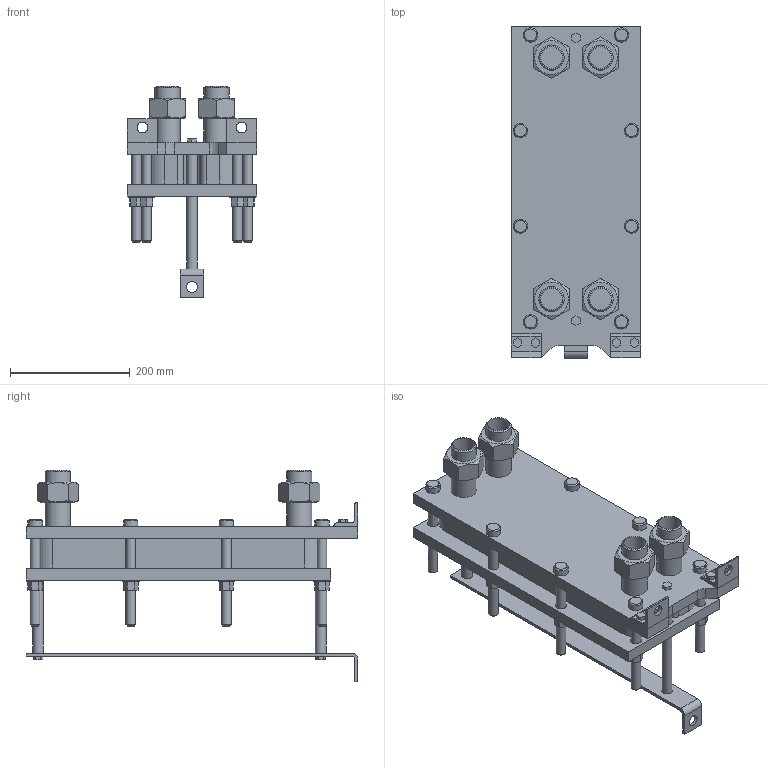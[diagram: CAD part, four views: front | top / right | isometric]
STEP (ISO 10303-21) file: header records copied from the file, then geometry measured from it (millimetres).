
FILE_DESCRIPTION(/* description */ (''),/* implementation_level */ '2;1');
FILE_NAME(/* name */ 'C:\Users\zhuro\Desktop\ENCO\TO\ЭН-004\ЭН-0,5-004-16-1.stp',/* time_stamp */ '2022-06-06T10:44:58+03:00',/* author */ ('zhuro'),/* organization */ (''),/* preprocessor_version */ 'ST-DEVELOPER v18.1',/* originating_system */ 'Autodesk Inventor 2022',/* authorisation */ '');
FILE_SCHEMA (('AUTOMOTIVE_DESIGN { 1 0 10303 214 3 1 1 }'));
Length unit declared in the file: millimetre
Products named in the file (1): ЭН-0,5-004-16-1
Bounding box: 216 x 555 x 353.8 mm (x, y, z)
Volume: 9179446.7 mm3; surface area: 1066549.3 mm2
Topology: 40 solids, 40 shells, 403 faces, 865 edges, 574 vertices
Faces by surface type: plane 272, cylinder 103, cone 28
Full cylindrical faces by diameter (mm): 10 x4, 16 x16, 18 x29, 20 x2, 24 x8, 28 x8, 36.3 x5, 42.3 x9
Entity records: 11137 total; most frequent: CARTESIAN_POINT 1939, DIRECTION 1879, ORIENTED_EDGE 1730, EDGE_CURVE 865, AXIS2_PLACEMENT_3D 658, VERTEX_POINT 574, LINE 563, VECTOR 563
